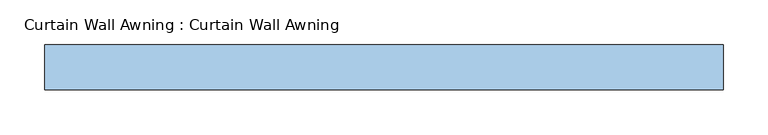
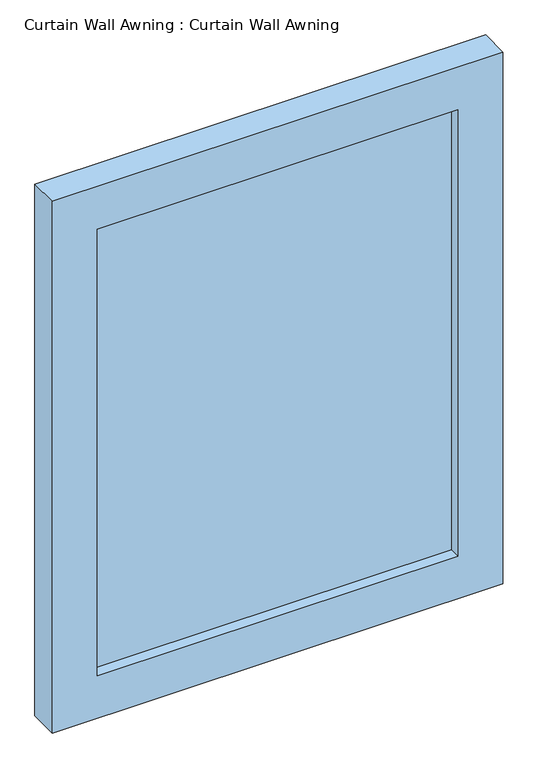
"""IFC4 building model written with IfcOpenShell, lengths in millimetres: window geometry, Curtain Wall Awning : Curtain Wall Awning."""

from ifc_helpers import new_model, si_unit, frame, origin, place, context, project, spatial, polyline, outline, extrude, source, transform, mapped, element, save


def curtain_wall_awning_curtain_wall_awning_e2df08a2(model_context):
    return source(origin(), model_context, "Body", "SweptSolid", [
        extrude(outline(polyline([(304.675, 44.45), (-304.675, 44.45), (-304.675, 57.15), (304.675, 57.15), (304.675, 44.45)])), frame((0.0, 0.0, 76.2), z_axis=(0.0, 0.0, 1.0), x_axis=(1.0, 0.0, 0.0)), (0.0, 0.0, 1.0), 797.6),
        extrude(outline(polyline([(950.0, -380.875), (0.0, -380.875), (0.0, 380.875), (950.0, 380.875), (950.0, -380.875)]), holes=[polyline([(873.8, -304.675), (873.8, 304.675), (76.2, 304.675), (76.2, -304.675), (873.8, -304.675)])]), frame((0.0, 25.4, 0.0), z_axis=(0.0, 1.0, 0.0), x_axis=(0.0, 0.0, 1.0)), (0.0, 0.0, 1.0), 50.8),
    ])


if __name__ == "__main__":
    model = new_model("IFC4")
    model_context = context("Model", 3, world=origin())
    ifc_project = project(units=[si_unit("LENGTHUNIT", "METRE", prefix="MILLI")], contexts=[model_context])
    site = spatial("IfcSite", under=ifc_project)
    building = spatial("IfcBuilding", under=site)
    placement = place(None, origin())
    curtain_wall_awning_curtain_wall_awning_shape = curtain_wall_awning_curtain_wall_awning_e2df08a2(model_context)
    element("IfcWindow", 1, ObjectType="Curtain Wall Awning : Curtain Wall Awning", at=placement, inside=building, context=model_context, shape_type="MappedRepresentation", body=[
        mapped(curtain_wall_awning_curtain_wall_awning_shape, transform((0.0, 0.0, 0.0), x_axis=(1.0, 0.0, 0.0), y_axis=(0.0, 1.0, 0.0), z_axis=(0.0, 0.0, 1.0))),
    ])
    save(model, "model.ifc")
